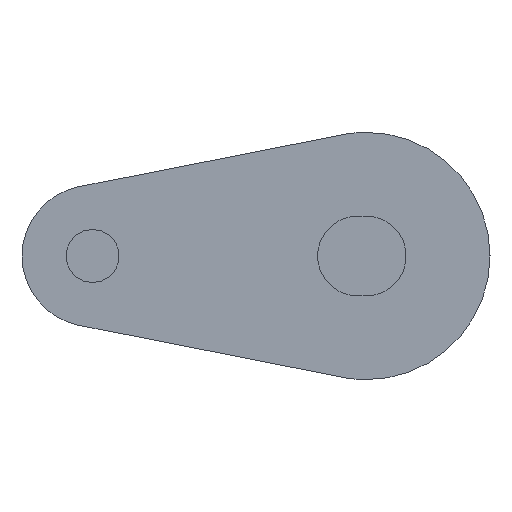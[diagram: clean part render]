
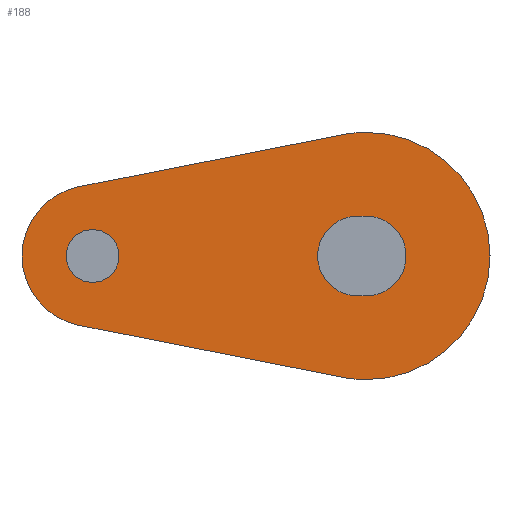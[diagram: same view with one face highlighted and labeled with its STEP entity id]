
A CAD part, left-side view. The second image highlights one B-rep face of the part: STEP entity #188.
In plain terms, the highlighted planar face has unit normal (-1, 0, 0).
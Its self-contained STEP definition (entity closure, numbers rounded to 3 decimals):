
#33 = AXIS2_PLACEMENT_3D ( 'NONE', #902, #901, #900 ) ;
#35 = EDGE_CURVE ( 'NONE', #661, #669, #440, .T. ) ;
#42 = AXIS2_PLACEMENT_3D ( 'NONE', #810, #836, #833 ) ;
#43 = EDGE_CURVE ( 'NONE', #607, #604, #432, .T. ) ;
#47 = EDGE_CURVE ( 'NONE', #676, #620, #429, .T. ) ;
#52 = AXIS2_PLACEMENT_3D ( 'NONE', #629, #651, #650 ) ;
#63 = AXIS2_PLACEMENT_3D ( 'NONE', #681, #682, #683 ) ;
#74 = EDGE_CURVE ( 'NONE', #606, #607, #415, .T. ) ;
#87 = EDGE_CURVE ( 'NONE', #609, #662, #399, .T. ) ;
#91 = EDGE_CURVE ( 'NONE', #604, #635, #400, .T. ) ;
#109 = AXIS2_PLACEMENT_3D ( 'NONE', #715, #792, #821 ) ;
#120 = EDGE_CURVE ( 'NONE', #662, #661, #371, .T. ) ;
#127 = EDGE_CURVE ( 'NONE', #675, #609, #357, .T. ) ;
#133 = AXIS2_PLACEMENT_3D ( 'NONE', #807, #816, #817 ) ;
#137 = AXIS2_PLACEMENT_3D ( 'NONE', #760, #751, #752 ) ;
#142 = EDGE_CURVE ( 'NONE', #635, #606, #346, .T. ) ;
#153 = EDGE_CURVE ( 'NONE', #666, #675, #341, .T. ) ;
#156 = EDGE_CURVE ( 'NONE', #669, #666, #340, .T. ) ;
#157 = EDGE_CURVE ( 'NONE', #620, #676, #336, .T. ) ;
#159 = AXIS2_PLACEMENT_3D ( 'NONE', #640, #656, #854 ) ;
#162 = AXIS2_PLACEMENT_3D ( 'NONE', #799, #808, #809 ) ;
#188 = ADVANCED_FACE ( 'NONE', ( #304, #300, #298 ), #906, .T. ) ;
#211 = ORIENTED_EDGE ( 'NONE', *, *, #120, .F. ) ;
#215 = ORIENTED_EDGE ( 'NONE', *, *, #35, .F. ) ;
#223 = ORIENTED_EDGE ( 'NONE', *, *, #157, .T. ) ;
#225 = ORIENTED_EDGE ( 'NONE', *, *, #153, .F. ) ;
#227 = ORIENTED_EDGE ( 'NONE', *, *, #127, .F. ) ;
#228 = ORIENTED_EDGE ( 'NONE', *, *, #87, .F. ) ;
#243 = ORIENTED_EDGE ( 'NONE', *, *, #91, .T. ) ;
#246 = ORIENTED_EDGE ( 'NONE', *, *, #142, .T. ) ;
#247 = ORIENTED_EDGE ( 'NONE', *, *, #74, .T. ) ;
#248 = ORIENTED_EDGE ( 'NONE', *, *, #43, .T. ) ;
#252 = ORIENTED_EDGE ( 'NONE', *, *, #47, .T. ) ;
#263 = ORIENTED_EDGE ( 'NONE', *, *, #156, .F. ) ;
#298 = FACE_OUTER_BOUND ( 'NONE', #480, .T. ) ;
#300 = FACE_BOUND ( 'NONE', #479, .T. ) ;
#304 = FACE_BOUND ( 'NONE', #478, .T. ) ;
#336 = CIRCLE ( 'NONE', #42, 1.51 ) ;
#339 = VECTOR ( 'NONE', #828, 1000. ) ;
#340 = LINE ( 'NONE', #826, #339 ) ;
#341 = CIRCLE ( 'NONE', #133, 7. ) ;
#346 = CIRCLE ( 'NONE', #162, 2.26 ) ;
#357 = CIRCLE ( 'NONE', #109, 7. ) ;
#369 = VECTOR ( 'NONE', #714, 1000. ) ;
#371 = LINE ( 'NONE', #713, #369 ) ;
#399 = CIRCLE ( 'NONE', #137, 7. ) ;
#400 = LINE ( 'NONE', #757, #412 ) ;
#412 = VECTOR ( 'NONE', #742, 1000. ) ;
#414 = VECTOR ( 'NONE', #754, 1000. ) ;
#415 = LINE ( 'NONE', #767, #414 ) ;
#429 = CIRCLE ( 'NONE', #63, 1.51 ) ;
#432 = CIRCLE ( 'NONE', #52, 2.26 ) ;
#440 = CIRCLE ( 'NONE', #159, 4. ) ;
#478 = EDGE_LOOP ( 'NONE', ( #246, #247, #248, #243 ) ) ;
#479 = EDGE_LOOP ( 'NONE', ( #252, #223 ) ) ;
#480 = EDGE_LOOP ( 'NONE', ( #215, #211, #228, #227, #225, #263 ) ) ;
#604 = VERTEX_POINT ( 'NONE', #970 ) ;
#606 = VERTEX_POINT ( 'NONE', #981 ) ;
#607 = VERTEX_POINT ( 'NONE', #980 ) ;
#609 = VERTEX_POINT ( 'NONE', #991 ) ;
#620 = VERTEX_POINT ( 'NONE', #977 ) ;
#629 = CARTESIAN_POINT ( 'NONE',  ( -707.5, 0., 0. ) ) ;
#635 = VERTEX_POINT ( 'NONE', #1011 ) ;
#640 = CARTESIAN_POINT ( 'NONE',  ( -707.5, 15.5, 0. ) ) ;
#650 = DIRECTION ( 'NONE',  ( 0., 0., -1. ) ) ;
#651 = DIRECTION ( 'NONE',  ( 1., 0., 0. ) ) ;
#656 = DIRECTION ( 'NONE',  ( 1., 0., 0. ) ) ;
#661 = VERTEX_POINT ( 'NONE', #1002 ) ;
#662 = VERTEX_POINT ( 'NONE', #1003 ) ;
#666 = VERTEX_POINT ( 'NONE', #1015 ) ;
#669 = VERTEX_POINT ( 'NONE', #1016 ) ;
#675 = VERTEX_POINT ( 'NONE', #1018 ) ;
#676 = VERTEX_POINT ( 'NONE', #1019 ) ;
#681 = CARTESIAN_POINT ( 'NONE',  ( -707.5, 15.5, 0. ) ) ;
#682 = DIRECTION ( 'NONE',  ( 1., 0., 0. ) ) ;
#683 = DIRECTION ( 'NONE',  ( 0., 0., -1. ) ) ;
#713 = CARTESIAN_POINT ( 'NONE',  ( -707.5, 1.355, -6.868 ) ) ;
#714 = DIRECTION ( 'NONE',  ( 0., 0.981, 0.194 ) ) ;
#715 = CARTESIAN_POINT ( 'NONE',  ( -707.5, 0., 0. ) ) ;
#742 = DIRECTION ( 'NONE',  ( 0., 1., 0. ) ) ;
#751 = DIRECTION ( 'NONE',  ( 1., 0., 0. ) ) ;
#752 = DIRECTION ( 'NONE',  ( 0., 0., -1. ) ) ;
#754 = DIRECTION ( 'NONE',  ( 0., -1., 0. ) ) ;
#757 = CARTESIAN_POINT ( 'NONE',  ( -707.5, 0.5, -2.26 ) ) ;
#760 = CARTESIAN_POINT ( 'NONE',  ( -707.5, 0., 0. ) ) ;
#767 = CARTESIAN_POINT ( 'NONE',  ( -707.5, 0.5, 2.26 ) ) ;
#792 = DIRECTION ( 'NONE',  ( 1., 0., 0. ) ) ;
#799 = CARTESIAN_POINT ( 'NONE',  ( -707.5, 0.5, 0. ) ) ;
#807 = CARTESIAN_POINT ( 'NONE',  ( -707.5, 0., 0. ) ) ;
#808 = DIRECTION ( 'NONE',  ( 1., 0., 0. ) ) ;
#809 = DIRECTION ( 'NONE',  ( 0., 0., -1. ) ) ;
#810 = CARTESIAN_POINT ( 'NONE',  ( -707.5, 15.5, 0. ) ) ;
#816 = DIRECTION ( 'NONE',  ( 1., 0., 0. ) ) ;
#817 = DIRECTION ( 'NONE',  ( 0., 0., -1. ) ) ;
#821 = DIRECTION ( 'NONE',  ( 0., 0., -1. ) ) ;
#826 = CARTESIAN_POINT ( 'NONE',  ( -707.5, 16.274, 3.924 ) ) ;
#828 = DIRECTION ( 'NONE',  ( 0., -0.981, 0.194 ) ) ;
#833 = DIRECTION ( 'NONE',  ( 0., 0., -1. ) ) ;
#836 = DIRECTION ( 'NONE',  ( 1., 0., 0. ) ) ;
#854 = DIRECTION ( 'NONE',  ( 0., 0., -1. ) ) ;
#900 = DIRECTION ( 'NONE',  ( 0., 0., -1. ) ) ;
#901 = DIRECTION ( 'NONE',  ( -1., 0., 0. ) ) ;
#902 = CARTESIAN_POINT ( 'NONE',  ( -707.5, 15.5, 0. ) ) ;
#906 = PLANE ( 'NONE',  #33 ) ;
#970 = CARTESIAN_POINT ( 'NONE',  ( -707.5, 0., -2.26 ) ) ;
#977 = CARTESIAN_POINT ( 'NONE',  ( -707.5, 15.5, 1.51 ) ) ;
#980 = CARTESIAN_POINT ( 'NONE',  ( -707.5, 0., 2.26 ) ) ;
#981 = CARTESIAN_POINT ( 'NONE',  ( -707.5, 0.5, 2.26 ) ) ;
#991 = CARTESIAN_POINT ( 'NONE',  ( -707.5, 0., -7. ) ) ;
#1002 = CARTESIAN_POINT ( 'NONE',  ( -707.5, 16.274, -3.924 ) ) ;
#1003 = CARTESIAN_POINT ( 'NONE',  ( -707.5, 1.355, -6.868 ) ) ;
#1011 = CARTESIAN_POINT ( 'NONE',  ( -707.5, 0.5, -2.26 ) ) ;
#1015 = CARTESIAN_POINT ( 'NONE',  ( -707.5, 1.355, 6.868 ) ) ;
#1016 = CARTESIAN_POINT ( 'NONE',  ( -707.5, 16.274, 3.924 ) ) ;
#1018 = CARTESIAN_POINT ( 'NONE',  ( -707.5, 0., 7. ) ) ;
#1019 = CARTESIAN_POINT ( 'NONE',  ( -707.5, 15.5, -1.51 ) ) ;
